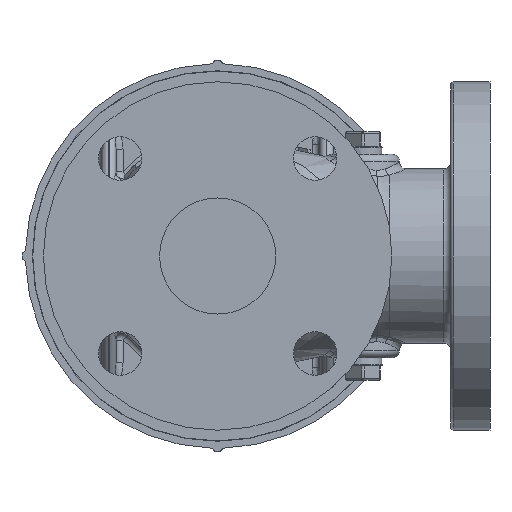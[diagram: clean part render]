
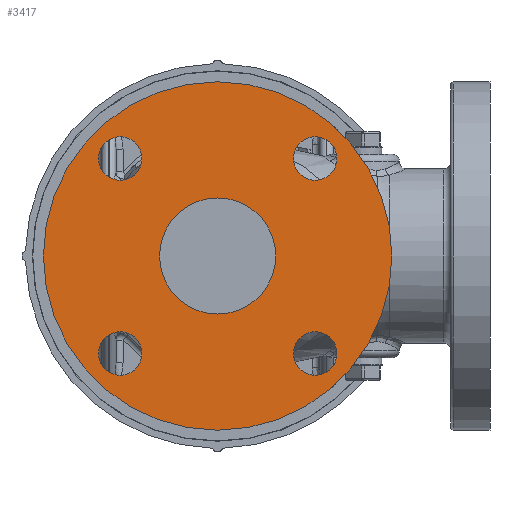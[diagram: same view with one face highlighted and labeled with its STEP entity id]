
A CAD part, front view. The second image highlights one B-rep face of the part: STEP entity #3417.
In plain terms, the highlighted planar face has unit normal (0, -1, 0).
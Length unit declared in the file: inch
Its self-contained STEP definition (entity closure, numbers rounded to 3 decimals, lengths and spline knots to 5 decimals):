
#74 = VERTEX_POINT ( 'NONE', #25773 ) ;
#138 = CARTESIAN_POINT ( 'NONE',  ( 1.67938, -3.25, -1.30438 ) ) ;
#296 = EDGE_CURVE ( 'NONE', #26745, #21914, #9662, .T. ) ;
#922 = DIRECTION ( 'NONE',  ( -1., 0., 0. ) ) ;
#1232 = ORIENTED_EDGE ( 'NONE', *, *, #7635, .F. ) ;
#1537 = CIRCLE ( 'NONE', #30983, 3. ) ;
#2338 = CIRCLE ( 'NONE', #23135, 0.375 ) ;
#2393 = ORIENTED_EDGE ( 'NONE', *, *, #36579, .F. ) ;
#2435 = DIRECTION ( 'NONE',  ( 1., 0., 0. ) ) ;
#2508 = DIRECTION ( 'NONE',  ( 0., -1., 0. ) ) ;
#2537 = DIRECTION ( 'NONE',  ( 0., 0., -1. ) ) ;
#2576 = CARTESIAN_POINT ( 'NONE',  ( -1.67938, -3.25, 1.67938 ) ) ;
#3417 = ADVANCED_FACE ( 'NONE', ( #22811, #39683, #23842, #40168, #24843, #14120 ), #8075, .T. ) ;
#3466 = CARTESIAN_POINT ( 'NONE',  ( 0., -3.25, -3. ) ) ;
#3753 = CIRCLE ( 'NONE', #37105, 0.375 ) ;
#3754 = EDGE_CURVE ( 'NONE', #32651, #74, #2338, .T. ) ;
#4300 = CARTESIAN_POINT ( 'NONE',  ( 0., -3.25, 3. ) ) ;
#4571 = CARTESIAN_POINT ( 'NONE',  ( 0., -3.25, 0. ) ) ;
#4593 = CARTESIAN_POINT ( 'NONE',  ( 1.67938, -3.25, 1.30438 ) ) ;
#6089 = DIRECTION ( 'NONE',  ( -1., 0., 0. ) ) ;
#6210 = DIRECTION ( 'NONE',  ( 0., 0., 1. ) ) ;
#6265 = EDGE_CURVE ( 'NONE', #7988, #9847, #19160, .T. ) ;
#6663 = DIRECTION ( 'NONE',  ( 0., -1., 0. ) ) ;
#6724 = AXIS2_PLACEMENT_3D ( 'NONE', #19531, #25675, #2537 ) ;
#7623 = DIRECTION ( 'NONE',  ( 0., -1., 0. ) ) ;
#7635 = EDGE_CURVE ( 'NONE', #39523, #34404, #38502, .T. ) ;
#7988 = VERTEX_POINT ( 'NONE', #3466 ) ;
#8075 = PLANE ( 'NONE',  #34304 ) ;
#8767 = CIRCLE ( 'NONE', #28024, 0.375 ) ;
#8899 = ORIENTED_EDGE ( 'NONE', *, *, #13954, .F. ) ;
#9662 = CIRCLE ( 'NONE', #24388, 0.375 ) ;
#9847 = VERTEX_POINT ( 'NONE', #4300 ) ;
#10675 = DIRECTION ( 'NONE',  ( 0., 1., 0. ) ) ;
#11341 = EDGE_LOOP ( 'NONE', ( #35445, #15532 ) ) ;
#12074 = CARTESIAN_POINT ( 'NONE',  ( -1.67938, -3.25, -2.05438 ) ) ;
#12969 = CARTESIAN_POINT ( 'NONE',  ( 1.67938, -3.25, -1.67938 ) ) ;
#13116 = DIRECTION ( 'NONE',  ( 1., 0., 0. ) ) ;
#13954 = EDGE_CURVE ( 'NONE', #22590, #40012, #29009, .T. ) ;
#14119 = EDGE_LOOP ( 'NONE', ( #41699, #15732 ) ) ;
#14120 = FACE_BOUND ( 'NONE', #11341, .T. ) ;
#14543 = CARTESIAN_POINT ( 'NONE',  ( -3., -3.25, 0. ) ) ;
#15002 = AXIS2_PLACEMENT_3D ( 'NONE', #40214, #10675, #20656 ) ;
#15532 = ORIENTED_EDGE ( 'NONE', *, *, #296, .F. ) ;
#15535 = ORIENTED_EDGE ( 'NONE', *, *, #6265, .F. ) ;
#15732 = ORIENTED_EDGE ( 'NONE', *, *, #24541, .F. ) ;
#16020 = DIRECTION ( 'NONE',  ( 0., -1., 0. ) ) ;
#16141 = DIRECTION ( 'NONE',  ( 0., 1., 0. ) ) ;
#16411 = DIRECTION ( 'NONE',  ( 0., 0., 1. ) ) ;
#18160 = DIRECTION ( 'NONE',  ( 0., -1., 0. ) ) ;
#19160 = CIRCLE ( 'NONE', #15002, 3. ) ;
#19421 = EDGE_CURVE ( 'NONE', #40012, #22590, #31794, .T. ) ;
#19531 = CARTESIAN_POINT ( 'NONE',  ( 0., -3.25, 0. ) ) ;
#19661 = ORIENTED_EDGE ( 'NONE', *, *, #22684, .F. ) ;
#20656 = DIRECTION ( 'NONE',  ( 0., 0., 1. ) ) ;
#21404 = DIRECTION ( 'NONE',  ( 0., 0., -1. ) ) ;
#21914 = VERTEX_POINT ( 'NONE', #23153 ) ;
#22354 = CIRCLE ( 'NONE', #24656, 0.375 ) ;
#22424 = CARTESIAN_POINT ( 'NONE',  ( 0., -3.25, 0. ) ) ;
#22590 = VERTEX_POINT ( 'NONE', #42035 ) ;
#22684 = EDGE_CURVE ( 'NONE', #37894, #36184, #3753, .T. ) ;
#22811 = FACE_BOUND ( 'NONE', #31332, .T. ) ;
#22965 = DIRECTION ( 'NONE',  ( 0., -1., 0. ) ) ;
#23135 = AXIS2_PLACEMENT_3D ( 'NONE', #36940, #7623, #40330 ) ;
#23153 = CARTESIAN_POINT ( 'NONE',  ( -1.67938, -3.25, 1.30438 ) ) ;
#23527 = CARTESIAN_POINT ( 'NONE',  ( -1.67938, -3.25, 1.67938 ) ) ;
#23796 = EDGE_LOOP ( 'NONE', ( #2393, #1232 ) ) ;
#23842 = FACE_BOUND ( 'NONE', #29408, .T. ) ;
#24388 = AXIS2_PLACEMENT_3D ( 'NONE', #23527, #6663, #13116 ) ;
#24541 = EDGE_CURVE ( 'NONE', #74, #32651, #28155, .T. ) ;
#24656 = AXIS2_PLACEMENT_3D ( 'NONE', #2576, #38161, #2435 ) ;
#24843 = FACE_BOUND ( 'NONE', #14119, .T. ) ;
#24913 = AXIS2_PLACEMENT_3D ( 'NONE', #28998, #16020, #28567 ) ;
#25486 = EDGE_CURVE ( 'NONE', #9847, #7988, #1537, .T. ) ;
#25675 = DIRECTION ( 'NONE',  ( 0., -1., 0. ) ) ;
#25773 = CARTESIAN_POINT ( 'NONE',  ( -1.67938, -3.25, -1.30438 ) ) ;
#25796 = CARTESIAN_POINT ( 'NONE',  ( -1.67938, -3.25, -1.67938 ) ) ;
#26198 = DIRECTION ( 'NONE',  ( 0., -1., 0. ) ) ;
#26745 = VERTEX_POINT ( 'NONE', #35288 ) ;
#27403 = DIRECTION ( 'NONE',  ( 0., 0., -1. ) ) ;
#28024 = AXIS2_PLACEMENT_3D ( 'NONE', #33053, #33464, #922 ) ;
#28155 = CIRCLE ( 'NONE', #40925, 0.375 ) ;
#28567 = DIRECTION ( 'NONE',  ( 0., 0., -1. ) ) ;
#28998 = CARTESIAN_POINT ( 'NONE',  ( 1.67938, -3.25, 1.67938 ) ) ;
#29009 = CIRCLE ( 'NONE', #6724, 1. ) ;
#29408 = EDGE_LOOP ( 'NONE', ( #19661, #38242 ) ) ;
#30945 = CARTESIAN_POINT ( 'NONE',  ( 1.67938, -3.25, -2.05438 ) ) ;
#30983 = AXIS2_PLACEMENT_3D ( 'NONE', #22424, #16141, #16411 ) ;
#31332 = EDGE_LOOP ( 'NONE', ( #32878, #8899 ) ) ;
#31794 = CIRCLE ( 'NONE', #38895, 1. ) ;
#32651 = VERTEX_POINT ( 'NONE', #12074 ) ;
#32878 = ORIENTED_EDGE ( 'NONE', *, *, #19421, .F. ) ;
#33047 = DIRECTION ( 'NONE',  ( 0., 0., -1. ) ) ;
#33053 = CARTESIAN_POINT ( 'NONE',  ( 1.67938, -3.25, -1.67938 ) ) ;
#33271 = ORIENTED_EDGE ( 'NONE', *, *, #25486, .F. ) ;
#33464 = DIRECTION ( 'NONE',  ( 0., -1., 0. ) ) ;
#33620 = AXIS2_PLACEMENT_3D ( 'NONE', #12969, #22965, #6089 ) ;
#34098 = DIRECTION ( 'NONE',  ( 0., -1., 0. ) ) ;
#34304 = AXIS2_PLACEMENT_3D ( 'NONE', #14543, #34098, #27403 ) ;
#34404 = VERTEX_POINT ( 'NONE', #30945 ) ;
#35131 = EDGE_LOOP ( 'NONE', ( #33271, #15535 ) ) ;
#35288 = CARTESIAN_POINT ( 'NONE',  ( -1.67938, -3.25, 2.05438 ) ) ;
#35445 = ORIENTED_EDGE ( 'NONE', *, *, #41856, .F. ) ;
#36076 = CARTESIAN_POINT ( 'NONE',  ( 1.67938, -3.25, 1.67938 ) ) ;
#36184 = VERTEX_POINT ( 'NONE', #41151 ) ;
#36579 = EDGE_CURVE ( 'NONE', #34404, #39523, #8767, .T. ) ;
#36940 = CARTESIAN_POINT ( 'NONE',  ( -1.67938, -3.25, -1.67938 ) ) ;
#37105 = AXIS2_PLACEMENT_3D ( 'NONE', #36076, #26198, #33047 ) ;
#37894 = VERTEX_POINT ( 'NONE', #4593 ) ;
#38161 = DIRECTION ( 'NONE',  ( 0., -1., 0. ) ) ;
#38239 = CIRCLE ( 'NONE', #24913, 0.375 ) ;
#38242 = ORIENTED_EDGE ( 'NONE', *, *, #40656, .F. ) ;
#38502 = CIRCLE ( 'NONE', #33620, 0.375 ) ;
#38895 = AXIS2_PLACEMENT_3D ( 'NONE', #4571, #18160, #21404 ) ;
#39523 = VERTEX_POINT ( 'NONE', #138 ) ;
#39683 = FACE_OUTER_BOUND ( 'NONE', #35131, .T. ) ;
#39899 = CARTESIAN_POINT ( 'NONE',  ( 0., -3.25, -1. ) ) ;
#40012 = VERTEX_POINT ( 'NONE', #39899 ) ;
#40168 = FACE_BOUND ( 'NONE', #23796, .T. ) ;
#40214 = CARTESIAN_POINT ( 'NONE',  ( 0., -3.25, 0. ) ) ;
#40330 = DIRECTION ( 'NONE',  ( 0., 0., 1. ) ) ;
#40656 = EDGE_CURVE ( 'NONE', #36184, #37894, #38239, .T. ) ;
#40925 = AXIS2_PLACEMENT_3D ( 'NONE', #25796, #2508, #6210 ) ;
#41151 = CARTESIAN_POINT ( 'NONE',  ( 1.67938, -3.25, 2.05438 ) ) ;
#41699 = ORIENTED_EDGE ( 'NONE', *, *, #3754, .F. ) ;
#41856 = EDGE_CURVE ( 'NONE', #21914, #26745, #22354, .T. ) ;
#42035 = CARTESIAN_POINT ( 'NONE',  ( 0., -3.25, 1. ) ) ;
